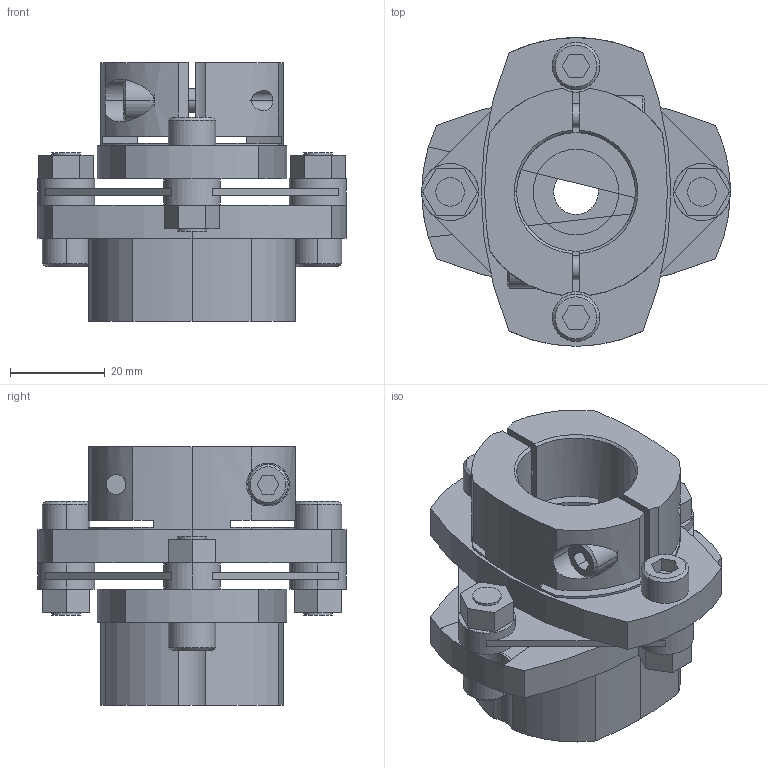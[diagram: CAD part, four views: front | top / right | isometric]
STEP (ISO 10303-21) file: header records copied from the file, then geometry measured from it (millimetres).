
FILE_DESCRIPTION((''),'2;1');
FILE_NAME('LCS-65M-11L亊25B.stp','2011-08-20T15:54:47',(''),(''),'AutoCAD STEP 2000i','AutoCAD 2000i',', , ');
FILE_SCHEMA(('CONFIG_CONTROL_DESIGN'));
Length unit declared in the file: millimetre
Products named in the file (9): LCS-65M-11L×24B; 忣兜1; LC65-B024; LC65-B022; LC65-B016; LC65M-L011; LC65-B014-1; LC65-B014; LCS65-ITA
Assembly tree (8 placements, depth 2):
  LCS-65M-11L×24B
    忣兜1
    LC65-B024
    LC65-B022
    LC65-B016
    LC65M-L011
    LC65-B014-1
    LC65-B014
    LCS65-ITA
Bounding box: 65 x 65 x 54.5 mm (x, y, z)
Volume: 71534.4 mm3; surface area: 25933.9 mm2
Topology: 1 solids, 1 shells, 228 faces, 596 edges, 390 vertices
Faces by surface type: plane 115, cylinder 92, cone 21
Entity records: 7525 total; most frequent: CARTESIAN_POINT 1493, DIRECTION 1290, ORIENTED_EDGE 1192, EDGE_CURVE 596, AXIS2_PLACEMENT_3D 475, VERTEX_POINT 390, VECTOR 340, LINE 340
